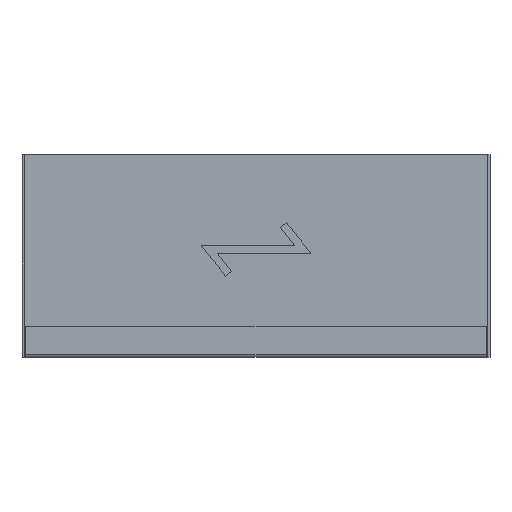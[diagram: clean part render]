
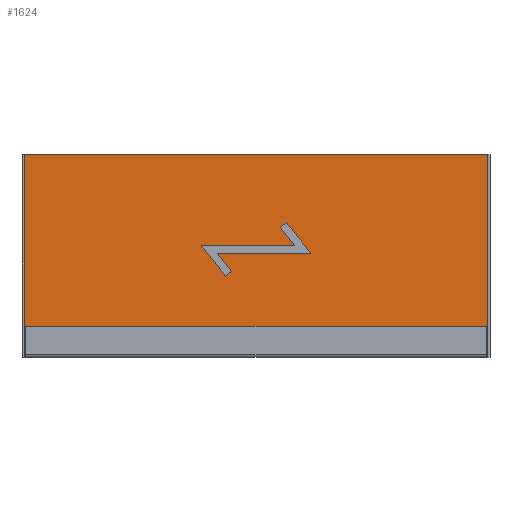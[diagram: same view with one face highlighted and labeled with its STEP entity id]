
A CAD part, top view. The second image highlights one B-rep face of the part: STEP entity #1624.
In plain terms, the highlighted planar face has unit normal (0, 0, 1) as drawn and (0, 1, 0) by its records, which use the part's own axes.
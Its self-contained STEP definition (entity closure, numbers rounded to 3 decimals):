
#32 = CARTESIAN_POINT ( 'NONE',  ( -34.35, 20., -38.903 ) ) ;
#53 = VECTOR ( 'NONE', #1924, 1000. ) ;
#60 = EDGE_CURVE ( 'NONE', #1033, #608, #1238, .T. ) ;
#113 = CARTESIAN_POINT ( 'NONE',  ( 3.125, 20., 63.903 ) ) ;
#137 = EDGE_CURVE ( 'NONE', #1616, #609, #1781, .T. ) ;
#147 = CARTESIAN_POINT ( 'NONE',  ( -121.5, 20., 297. ) ) ;
#165 = CARTESIAN_POINT ( 'NONE',  ( 34.35, 20., 38.903 ) ) ;
#172 = DIRECTION ( 'NONE',  ( -0.625, 0., -0.781 ) ) ;
#188 = VECTOR ( 'NONE', #914, 1000. ) ;
#193 = CARTESIAN_POINT ( 'NONE',  ( 5., 20., 49.592 ) ) ;
#224 = VERTEX_POINT ( 'NONE', #32 ) ;
#287 = VERTEX_POINT ( 'NONE', #193 ) ;
#303 = LINE ( 'NONE', #805, #939 ) ;
#306 = EDGE_CURVE ( 'NONE', #224, #1298, #1812, .T. ) ;
#353 = EDGE_CURVE ( 'NONE', #1616, #1177, #1210, .T. ) ;
#376 = CARTESIAN_POINT ( 'NONE',  ( 3.125, 20., -56.097 ) ) ;
#457 = DIRECTION ( 'NONE',  ( 0., 0., 1. ) ) ;
#461 = CARTESIAN_POINT ( 'NONE',  ( 121.5, 20., 297. ) ) ;
#462 = LINE ( 'NONE', #1699, #1744 ) ;
#477 = CARTESIAN_POINT ( 'NONE',  ( -5., 20., -49.592 ) ) ;
#497 = ORIENTED_EDGE ( 'NONE', *, *, #1648, .T. ) ;
#501 = VECTOR ( 'NONE', #1420, 1000. ) ;
#515 = VECTOR ( 'NONE', #1563, 1000. ) ;
#523 = EDGE_CURVE ( 'NONE', #609, #287, #303, .T. ) ;
#538 = ORIENTED_EDGE ( 'NONE', *, *, #523, .F. ) ;
#587 = ORIENTED_EDGE ( 'NONE', *, *, #353, .T. ) ;
#595 = PLANE ( 'NONE',  #1918 ) ;
#597 = ORIENTED_EDGE ( 'NONE', *, *, #620, .F. ) ;
#608 = VERTEX_POINT ( 'NONE', #1100 ) ;
#609 = VERTEX_POINT ( 'NONE', #1244 ) ;
#620 = EDGE_CURVE ( 'NONE', #1997, #224, #1867, .T. ) ;
#623 = ORIENTED_EDGE ( 'NONE', *, *, #60, .T. ) ;
#641 = EDGE_CURVE ( 'NONE', #608, #1886, #1572, .T. ) ;
#642 = DIRECTION ( 'NONE',  ( -0.781, 0., 0.625 ) ) ;
#764 = LINE ( 'NONE', #1874, #1755 ) ;
#769 = LINE ( 'NONE', #147, #1722 ) ;
#779 = FACE_BOUND ( 'NONE', #1863, .T. ) ;
#805 = CARTESIAN_POINT ( 'NONE',  ( -3.125, 20., 56.097 ) ) ;
#869 = VECTOR ( 'NONE', #1586, 1000. ) ;
#914 = DIRECTION ( 'NONE',  ( 0., 0., -1. ) ) ;
#930 = CARTESIAN_POINT ( 'NONE',  ( 5., 20., -70.408 ) ) ;
#937 = CARTESIAN_POINT ( 'NONE',  ( -3.125, 20., -63.903 ) ) ;
#939 = VECTOR ( 'NONE', #642, 1000. ) ;
#948 = ORIENTED_EDGE ( 'NONE', *, *, #137, .F. ) ;
#949 = CARTESIAN_POINT ( 'NONE',  ( 121.5, 20., 297. ) ) ;
#991 = CARTESIAN_POINT ( 'NONE',  ( -28.1, 20., -31.097 ) ) ;
#1020 = VERTEX_POINT ( 'NONE', #477 ) ;
#1033 = VERTEX_POINT ( 'NONE', #949 ) ;
#1079 = EDGE_CURVE ( 'NONE', #287, #1997, #1382, .T. ) ;
#1097 = DIRECTION ( 'NONE',  ( 0., -1., 0. ) ) ;
#1100 = CARTESIAN_POINT ( 'NONE',  ( 121.5, 20., -297. ) ) ;
#1137 = EDGE_CURVE ( 'NONE', #1886, #1522, #769, .T. ) ;
#1153 = EDGE_CURVE ( 'NONE', #1522, #1033, #764, .T. ) ;
#1177 = VERTEX_POINT ( 'NONE', #1921 ) ;
#1210 = LINE ( 'NONE', #113, #1620 ) ;
#1238 = LINE ( 'NONE', #461, #869 ) ;
#1244 = CARTESIAN_POINT ( 'NONE',  ( 28.1, 20., 31.097 ) ) ;
#1247 = ORIENTED_EDGE ( 'NONE', *, *, #641, .T. ) ;
#1248 = DIRECTION ( 'NONE',  ( 0., 0., -1. ) ) ;
#1285 = CARTESIAN_POINT ( 'NONE',  ( -121.5, 20., -297. ) ) ;
#1298 = VERTEX_POINT ( 'NONE', #991 ) ;
#1304 = EDGE_LOOP ( 'NONE', ( #623, #1247, #2008, #1482 ) ) ;
#1356 = DIRECTION ( 'NONE',  ( -0.781, 0., 0.625 ) ) ;
#1375 = CARTESIAN_POINT ( 'NONE',  ( -34.35, 20., -38.903 ) ) ;
#1382 = LINE ( 'NONE', #1560, #188 ) ;
#1391 = CARTESIAN_POINT ( 'NONE',  ( 0., 20., 0. ) ) ;
#1403 = FACE_OUTER_BOUND ( 'NONE', #1304, .T. ) ;
#1420 = DIRECTION ( 'NONE',  ( -0.781, 0., 0.625 ) ) ;
#1453 = ORIENTED_EDGE ( 'NONE', *, *, #306, .F. ) ;
#1482 = ORIENTED_EDGE ( 'NONE', *, *, #1153, .T. ) ;
#1522 = VERTEX_POINT ( 'NONE', #1826 ) ;
#1560 = CARTESIAN_POINT ( 'NONE',  ( 5., 20., -60. ) ) ;
#1563 = DIRECTION ( 'NONE',  ( -0.781, 0., 0.625 ) ) ;
#1571 = DIRECTION ( 'NONE',  ( 1., 0., 0. ) ) ;
#1572 = LINE ( 'NONE', #1915, #53 ) ;
#1586 = DIRECTION ( 'NONE',  ( 0., 0., -1. ) ) ;
#1616 = VERTEX_POINT ( 'NONE', #165 ) ;
#1620 = VECTOR ( 'NONE', #1356, 1000. ) ;
#1624 = ADVANCED_FACE ( 'NONE', ( #1403, #779 ), #595, .F. ) ;
#1648 = EDGE_CURVE ( 'NONE', #1177, #1020, #462, .T. ) ;
#1699 = CARTESIAN_POINT ( 'NONE',  ( -5., 20., -60. ) ) ;
#1722 = VECTOR ( 'NONE', #457, 1000. ) ;
#1744 = VECTOR ( 'NONE', #2019, 1000. ) ;
#1755 = VECTOR ( 'NONE', #1571, 1000. ) ;
#1760 = LINE ( 'NONE', #376, #501 ) ;
#1781 = LINE ( 'NONE', #1901, #1814 ) ;
#1812 = LINE ( 'NONE', #1375, #1913 ) ;
#1814 = VECTOR ( 'NONE', #172, 1000. ) ;
#1826 = CARTESIAN_POINT ( 'NONE',  ( -121.5, 20., 297. ) ) ;
#1838 = ORIENTED_EDGE ( 'NONE', *, *, #1882, .T. ) ;
#1863 = EDGE_LOOP ( 'NONE', ( #1838, #1453, #597, #1920, #538, #948, #587, #497 ) ) ;
#1867 = LINE ( 'NONE', #937, #515 ) ;
#1874 = CARTESIAN_POINT ( 'NONE',  ( -121.5, 20., 297. ) ) ;
#1882 = EDGE_CURVE ( 'NONE', #1020, #1298, #1760, .T. ) ;
#1886 = VERTEX_POINT ( 'NONE', #1285 ) ;
#1901 = CARTESIAN_POINT ( 'NONE',  ( 34.35, 20., 38.903 ) ) ;
#1913 = VECTOR ( 'NONE', #1989, 1000. ) ;
#1915 = CARTESIAN_POINT ( 'NONE',  ( -121.5, 20., -297. ) ) ;
#1918 = AXIS2_PLACEMENT_3D ( 'NONE', #1391, #1097, #1248 ) ;
#1920 = ORIENTED_EDGE ( 'NONE', *, *, #1079, .F. ) ;
#1921 = CARTESIAN_POINT ( 'NONE',  ( -5., 20., 70.408 ) ) ;
#1924 = DIRECTION ( 'NONE',  ( -1., 0., 0. ) ) ;
#1989 = DIRECTION ( 'NONE',  ( 0.625, 0., 0.781 ) ) ;
#1997 = VERTEX_POINT ( 'NONE', #930 ) ;
#2008 = ORIENTED_EDGE ( 'NONE', *, *, #1137, .T. ) ;
#2019 = DIRECTION ( 'NONE',  ( 0., 0., -1. ) ) ;
